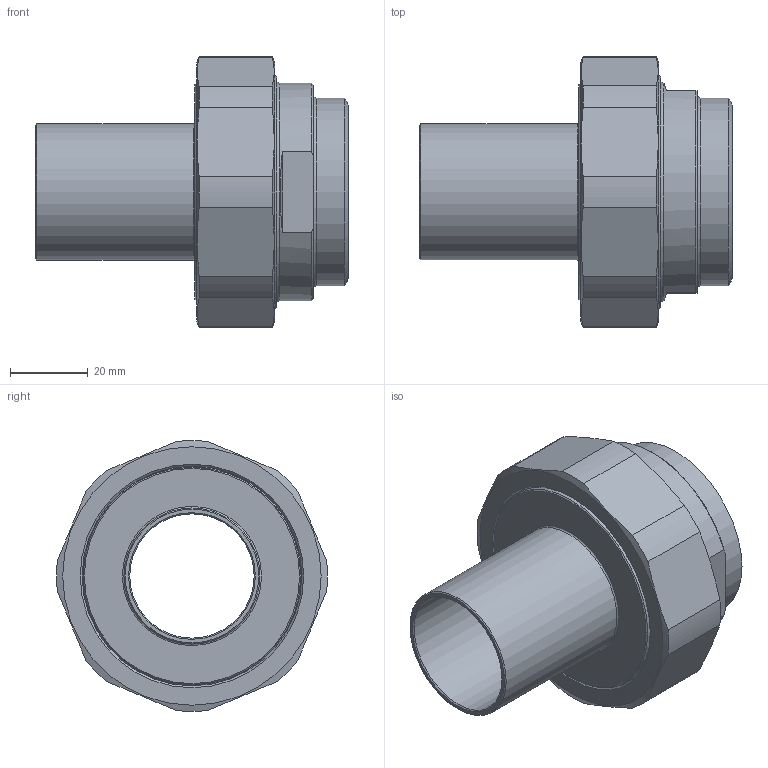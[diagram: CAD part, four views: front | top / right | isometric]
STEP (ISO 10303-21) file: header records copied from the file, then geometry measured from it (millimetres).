
FILE_DESCRIPTION(/* description */ (''),/* implementation_level */ '2;1');
FILE_NAME(/* name */ 'C:\Users\cad\Desktop\Zeichnungen neu von Ralph\Ganze Kupplungen\3D_Kupplung-R134-PE-SG\3D_R134-PE-SG-35-48.3_17102100.stp',/* time_stamp */ '2021-07-02T07:56:16+02:00',/* author */ ('cad'),/* organization */ (''),/* preprocessor_version */ 'ST-DEVELOPER v18.1',/* originating_system */ 'Autodesk Inventor 2022',/* authorisation */ '');
FILE_SCHEMA (('AUTOMOTIVE_DESIGN { 1 0 10303 214 3 1 1 }'));
Length unit declared in the file: millimetre
Products named in the file (4): 3D_R134-PE-SG-35-48.3_17102100; 3D_R134-M-DN40_171011630; 3D_R134-SG-48.3_171011530; 3D_R134-PE-35-DN40_171011290
Assembly tree (3 placements, depth 2):
  3D_R134-PE-SG-35-48.3_17102100
    3D_R134-M-DN40_171011630
    3D_R134-SG-48.3_171011530
    3D_R134-PE-35-DN40_171011290
Bounding box: 80.5 x 69.68 x 69.65 mm (x, y, z)
Volume: 71759 mm3; surface area: 37535.1 mm2
Topology: 3 solids, 3 shells, 74 faces, 178 edges, 117 vertices
Faces by surface type: plane 25, cone 20, cylinder 19, torus 10
Full cylindrical faces by diameter (mm): 32 x1, 35 x1, 43.1 x1, 43.3 x1, 48.3 x1, 56 x2, 56.5 x1, 60 x1, 60.376 x1, 61.85 x1
Entity records: 2342 total; most frequent: DIRECTION 425, CARTESIAN_POINT 416, ORIENTED_EDGE 356, AXIS2_PLACEMENT_3D 186, EDGE_CURVE 178, VERTEX_POINT 117, CIRCLE 103, EDGE_LOOP 87
